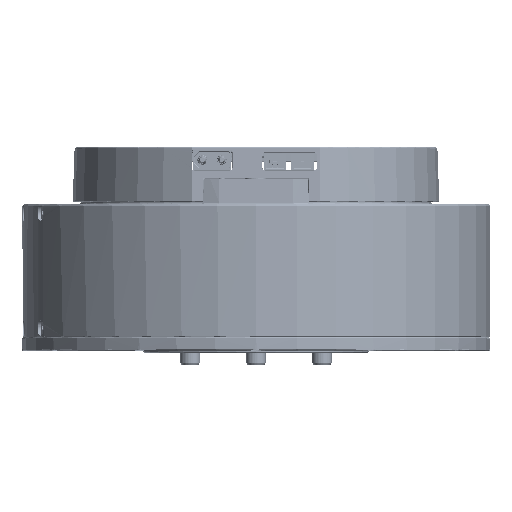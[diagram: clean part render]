
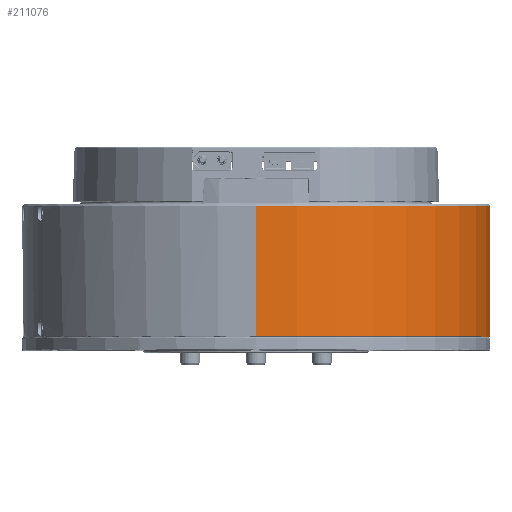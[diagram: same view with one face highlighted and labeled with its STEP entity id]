
A CAD part, top view. The second image highlights one B-rep face of the part: STEP entity #211076.
In plain terms, the highlighted cylindrical face has radius 60 mm (diameter 120 mm), a partial arc.
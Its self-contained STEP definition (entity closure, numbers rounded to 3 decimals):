
#17335 = ORIENTED_EDGE ( 'NONE', *, *, #268673, .T. ) ;
#24557 = CARTESIAN_POINT ( 'NONE',  ( 0., -61.735, 0. ) ) ;
#27219 = CIRCLE ( 'NONE', #291980, 60. ) ;
#35713 = CYLINDRICAL_SURFACE ( 'NONE', #193807, 60. ) ;
#43829 = DIRECTION ( 'NONE',  ( 0., -1., 0. ) ) ;
#44796 = EDGE_CURVE ( 'NONE', #248861, #140288, #236667, .T. ) ;
#52512 = DIRECTION ( 'NONE',  ( 0., 0., -1. ) ) ;
#56264 = ORIENTED_EDGE ( 'NONE', *, *, #44796, .T. ) ;
#57259 = VERTEX_POINT ( 'NONE', #125728 ) ;
#62485 = EDGE_CURVE ( 'NONE', #140288, #150793, #27219, .T. ) ;
#67398 = EDGE_CURVE ( 'NONE', #57259, #150793, #100425, .T. ) ;
#89993 = EDGE_LOOP ( 'NONE', ( #17335, #56264, #282058, #157167 ) ) ;
#100425 = LINE ( 'NONE', #165049, #256225 ) ;
#125484 = DIRECTION ( 'NONE',  ( 0., 1., 0. ) ) ;
#125728 = CARTESIAN_POINT ( 'NONE',  ( 0., -28.235, -60. ) ) ;
#128322 = CIRCLE ( 'NONE', #145615, 60. ) ;
#140288 = VERTEX_POINT ( 'NONE', #184134 ) ;
#145615 = AXIS2_PLACEMENT_3D ( 'NONE', #254607, #154748, #253540 ) ;
#150793 = VERTEX_POINT ( 'NONE', #158904 ) ;
#154748 = DIRECTION ( 'NONE',  ( 0., -1., 0. ) ) ;
#157167 = ORIENTED_EDGE ( 'NONE', *, *, #67398, .F. ) ;
#158904 = CARTESIAN_POINT ( 'NONE',  ( 0., -61.735, -60. ) ) ;
#165049 = CARTESIAN_POINT ( 'NONE',  ( 0., -61.935, -60. ) ) ;
#167522 = DIRECTION ( 'NONE',  ( 0., -1., 0. ) ) ;
#176343 = VECTOR ( 'NONE', #260859, 1000. ) ;
#180906 = FACE_OUTER_BOUND ( 'NONE', #89993, .T. ) ;
#184134 = CARTESIAN_POINT ( 'NONE',  ( 0., -61.735, 60. ) ) ;
#189451 = CARTESIAN_POINT ( 'NONE',  ( 0., -28.235, 60. ) ) ;
#193807 = AXIS2_PLACEMENT_3D ( 'NONE', #292817, #167522, #52512 ) ;
#198872 = DIRECTION ( 'NONE',  ( 0., 0., 1. ) ) ;
#211076 = ADVANCED_FACE ( 'NONE', ( #180906 ), #35713, .T. ) ;
#236667 = LINE ( 'NONE', #306699, #176343 ) ;
#248861 = VERTEX_POINT ( 'NONE', #189451 ) ;
#253540 = DIRECTION ( 'NONE',  ( 0., 0., -1. ) ) ;
#254607 = CARTESIAN_POINT ( 'NONE',  ( 0., -28.235, 0. ) ) ;
#256225 = VECTOR ( 'NONE', #43829, 1000. ) ;
#260859 = DIRECTION ( 'NONE',  ( 0., -1., 0. ) ) ;
#268673 = EDGE_CURVE ( 'NONE', #57259, #248861, #128322, .T. ) ;
#282058 = ORIENTED_EDGE ( 'NONE', *, *, #62485, .T. ) ;
#291980 = AXIS2_PLACEMENT_3D ( 'NONE', #24557, #125484, #198872 ) ;
#292817 = CARTESIAN_POINT ( 'NONE',  ( 0., -61.935, 0. ) ) ;
#306699 = CARTESIAN_POINT ( 'NONE',  ( 0., -61.935, 60. ) ) ;
